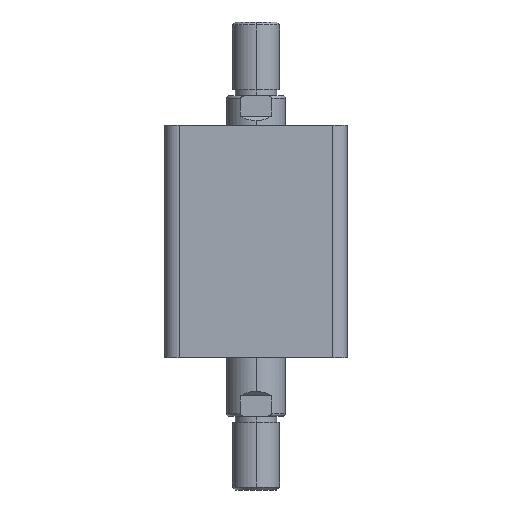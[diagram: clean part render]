
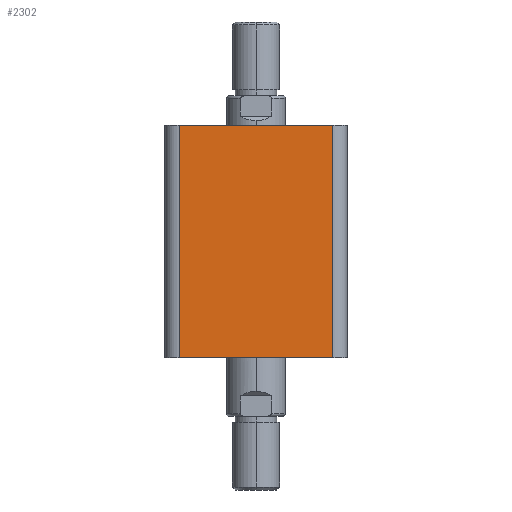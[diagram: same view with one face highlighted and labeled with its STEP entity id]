
A CAD part, left-side view. The second image highlights one B-rep face of the part: STEP entity #2302.
In plain terms, the highlighted planar face has unit normal (-1, 0, 0).
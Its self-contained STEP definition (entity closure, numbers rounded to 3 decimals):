
#42 = CARTESIAN_POINT ( 'NONE',  ( -31., 26., 0. ) ) ;
#884 = CARTESIAN_POINT ( 'NONE',  ( -31., -26., 79. ) ) ;
#894 = CARTESIAN_POINT ( 'NONE',  ( -31., 26., 79. ) ) ;
#900 = CARTESIAN_POINT ( 'NONE',  ( -31., -26., 0. ) ) ;
#1064 = VERTEX_POINT ( 'NONE', #42 ) ;
#1090 = VERTEX_POINT ( 'NONE', #884 ) ;
#1097 = VERTEX_POINT ( 'NONE', #900 ) ;
#1102 = VERTEX_POINT ( 'NONE', #894 ) ;
#1782 = FACE_OUTER_BOUND ( 'NONE', #2506, .T. ) ;
#1818 = LINE ( 'NONE', #3251, #1821 ) ;
#1821 = VECTOR ( 'NONE', #3239, 1000. ) ;
#1838 = LINE ( 'NONE', #3271, #1841 ) ;
#1840 = LINE ( 'NONE', #3273, #1843 ) ;
#1841 = VECTOR ( 'NONE', #3272, 1000. ) ;
#1842 = LINE ( 'NONE', #3275, #1845 ) ;
#1843 = VECTOR ( 'NONE', #3274, 1000. ) ;
#1845 = VECTOR ( 'NONE', #3276, 1000. ) ;
#2302 = ADVANCED_FACE ( 'NONE', ( #1782 ), #3039, .F. ) ;
#2361 = ORIENTED_EDGE ( 'NONE', *, *, #3097, .T. ) ;
#2362 = ORIENTED_EDGE ( 'NONE', *, *, #3109, .T. ) ;
#2374 = ORIENTED_EDGE ( 'NONE', *, *, #3108, .F. ) ;
#2375 = ORIENTED_EDGE ( 'NONE', *, *, #3107, .T. ) ;
#2506 = EDGE_LOOP ( 'NONE', ( #2361, #2362, #2374, #2375 ) ) ;
#2654 = AXIS2_PLACEMENT_3D ( 'NONE', #3033, #3041, #3042 ) ;
#3033 = CARTESIAN_POINT ( 'NONE',  ( -31., 31., 79. ) ) ;
#3039 = PLANE ( 'NONE',  #2654 ) ;
#3041 = DIRECTION ( 'NONE',  ( 1., 0., 0. ) ) ;
#3042 = DIRECTION ( 'NONE',  ( 0., 1., 0. ) ) ;
#3097 = EDGE_CURVE ( 'NONE', #1064, #1097, #1818, .T. ) ;
#3107 = EDGE_CURVE ( 'NONE', #1102, #1064, #1838, .T. ) ;
#3108 = EDGE_CURVE ( 'NONE', #1102, #1090, #1840, .T. ) ;
#3109 = EDGE_CURVE ( 'NONE', #1097, #1090, #1842, .T. ) ;
#3239 = DIRECTION ( 'NONE',  ( 0., -1., 0. ) ) ;
#3251 = CARTESIAN_POINT ( 'NONE',  ( -31., 31., 0. ) ) ;
#3271 = CARTESIAN_POINT ( 'NONE',  ( -31., 26., 79. ) ) ;
#3272 = DIRECTION ( 'NONE',  ( 0., 0., -1. ) ) ;
#3273 = CARTESIAN_POINT ( 'NONE',  ( -31., 31., 79. ) ) ;
#3274 = DIRECTION ( 'NONE',  ( 0., -1., 0. ) ) ;
#3275 = CARTESIAN_POINT ( 'NONE',  ( -31., -26., 79. ) ) ;
#3276 = DIRECTION ( 'NONE',  ( 0., 0., 1. ) ) ;
